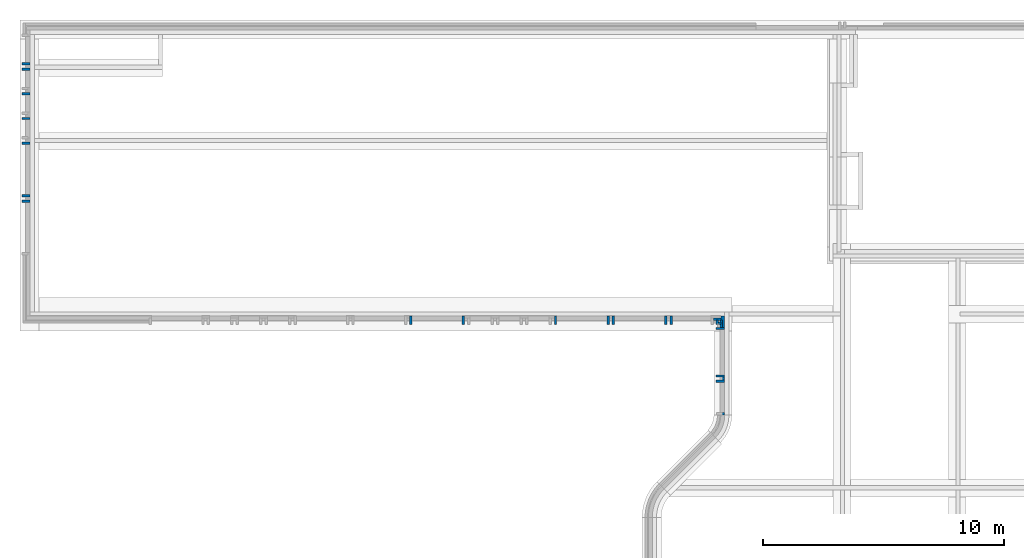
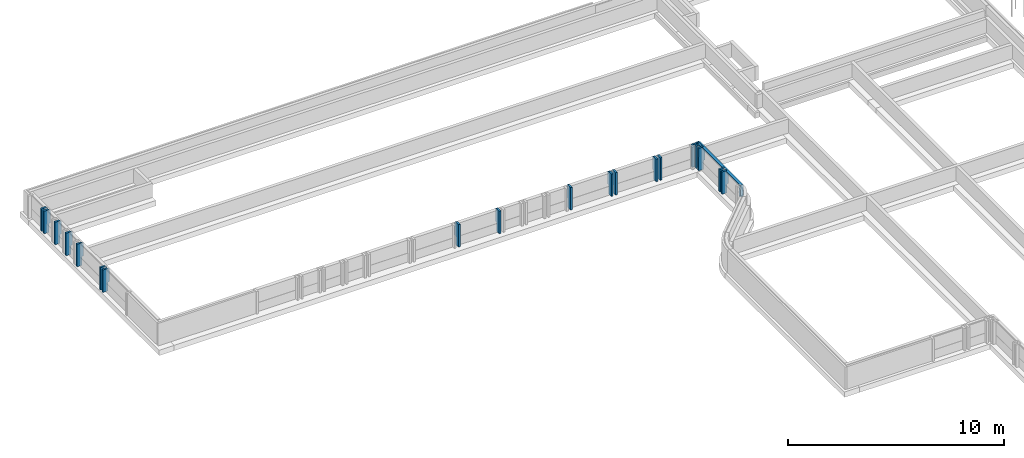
# One storey, part 12 of 15: 22 walls.
"""IFC2X3 building model written with IfcOpenShell, lengths in millimetres."""

from ifc_helpers import new_model, entity, si_unit, converted_unit, derived_unit, direction, frame, origin, place, context, subcontext, project, spatial, faceted_brep, material, layer, layer_set, type_object, element, save


model = new_model("IFC2X3")

# Units and contexts
model_context = context("Model", 3, precision=0.01, world=origin(), true_north=direction((6.123031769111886e-17, 1.0)))
body_context = subcontext(model_context, "Body", "Model", "MODEL_VIEW")
ifc_project = project(units=[si_unit("LENGTHUNIT", "METRE", prefix="MILLI"), si_unit("AREAUNIT", "SQUARE_METRE"), si_unit("VOLUMEUNIT", "CUBIC_METRE"), converted_unit("PLANEANGLEUNIT", "DEGREE", entity("IfcRatioMeasure", 0.017453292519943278), si_unit("PLANEANGLEUNIT", "RADIAN"), dimensions=[0, 0, 0, 0, 0, 0, 0]), si_unit("MASSUNIT", "GRAM", prefix="KILO"), derived_unit("MASSDENSITYUNIT", [(si_unit("MASSUNIT", "GRAM", prefix="KILO"), 1), (si_unit("LENGTHUNIT", "METRE"), -3)]), derived_unit("IONCONCENTRATIONUNIT", [(si_unit("MASSUNIT", "GRAM", prefix="KILO"), 1), (si_unit("LENGTHUNIT", "METRE"), -3)]), derived_unit("MOMENTOFINERTIAUNIT", [(si_unit("LENGTHUNIT", "METRE"), 4)]), si_unit("TIMEUNIT", "SECOND"), si_unit("FREQUENCYUNIT", "HERTZ"), si_unit("THERMODYNAMICTEMPERATUREUNIT", "DEGREE_CELSIUS"), derived_unit("THERMALTRANSMITTANCEUNIT", [(si_unit("MASSUNIT", "GRAM", prefix="KILO"), 1), (si_unit("THERMODYNAMICTEMPERATUREUNIT", "KELVIN"), -1), (si_unit("TIMEUNIT", "SECOND"), -3)]), derived_unit("THERMALCONDUCTANCEUNIT", [(si_unit("MASSUNIT", "GRAM", prefix="KILO"), 1), (si_unit("THERMODYNAMICTEMPERATUREUNIT", "KELVIN"), -1), (si_unit("TIMEUNIT", "SECOND"), -3), (si_unit("LENGTHUNIT", "METRE"), 1)]), derived_unit("VOLUMETRICFLOWRATEUNIT", [(si_unit("LENGTHUNIT", "METRE"), 3), (si_unit("TIMEUNIT", "SECOND"), -1)]), derived_unit("MASSFLOWRATEUNIT", [(si_unit("MASSUNIT", "GRAM", prefix="KILO"), 1), (si_unit("TIMEUNIT", "SECOND"), -1)]), derived_unit("ROTATIONALFREQUENCYUNIT", [(si_unit("TIMEUNIT", "SECOND"), -1)]), si_unit("ELECTRICCURRENTUNIT", "AMPERE"), si_unit("ELECTRICVOLTAGEUNIT", "VOLT"), si_unit("POWERUNIT", "WATT"), si_unit("FORCEUNIT", "NEWTON", prefix="KILO"), si_unit("ILLUMINANCEUNIT", "LUX"), si_unit("LUMINOUSFLUXUNIT", "LUMEN"), si_unit("LUMINOUSINTENSITYUNIT", "CANDELA"), derived_unit("USERDEFINED", [(si_unit("MASSUNIT", "GRAM", prefix="KILO"), -1), (si_unit("LENGTHUNIT", "METRE"), -2), (si_unit("TIMEUNIT", "SECOND"), 3), (si_unit("LUMINOUSFLUXUNIT", "LUMEN"), 1)]), derived_unit("USERDEFINED", [(si_unit("MASSUNIT", "GRAM", prefix="KILO"), 1), (si_unit("TIMEUNIT", "SECOND"), -3), (si_unit("LENGTHUNIT", "METRE"), 3), (si_unit("ELECTRICCURRENTUNIT", "AMPERE"), -2)]), derived_unit("SOUNDPOWERUNIT", [(si_unit("MASSUNIT", "GRAM", prefix="KILO"), 1), (si_unit("TIMEUNIT", "SECOND"), -3), (si_unit("LENGTHUNIT", "METRE"), 2)]), derived_unit("SOUNDPRESSUREUNIT", [(si_unit("MASSUNIT", "GRAM", prefix="KILO"), 1), (si_unit("LENGTHUNIT", "METRE"), -1), (si_unit("TIMEUNIT", "SECOND"), -2)]), derived_unit("LINEARVELOCITYUNIT", [(si_unit("LENGTHUNIT", "METRE"), 1), (si_unit("TIMEUNIT", "SECOND"), -1)]), si_unit("PRESSUREUNIT", "PASCAL"), derived_unit("USERDEFINED", [(si_unit("MASSUNIT", "GRAM", prefix="KILO"), 1), (si_unit("LENGTHUNIT", "METRE"), -2), (si_unit("TIMEUNIT", "SECOND"), -2)]), derived_unit("LINEARFORCEUNIT", [(si_unit("MASSUNIT", "GRAM", prefix="KILO"), 1), (si_unit("TIMEUNIT", "SECOND"), -2)]), derived_unit("PLANARFORCEUNIT", [(si_unit("MASSUNIT", "GRAM", prefix="KILO"), 1), (si_unit("LENGTHUNIT", "METRE"), -1), (si_unit("TIMEUNIT", "SECOND"), -2)]), derived_unit("SPECIFICHEATCAPACITYUNIT", [(si_unit("THERMODYNAMICTEMPERATUREUNIT", "KELVIN"), -1), (si_unit("LENGTHUNIT", "METRE"), 2), (si_unit("TIMEUNIT", "SECOND"), -2)]), derived_unit("HEATINGVALUEUNIT", [(si_unit("LENGTHUNIT", "METRE"), 2), (si_unit("TIMEUNIT", "SECOND"), -2)]), derived_unit("VAPORPERMEABILITYUNIT", [(si_unit("LENGTHUNIT", "METRE"), -1), (si_unit("TIMEUNIT", "SECOND"), 1)]), derived_unit("DYNAMICVISCOSITYUNIT", [(si_unit("MASSUNIT", "GRAM", prefix="KILO"), 1), (si_unit("TIMEUNIT", "SECOND"), -1), (si_unit("LENGTHUNIT", "METRE"), -1)]), derived_unit("THERMALEXPANSIONCOEFFICIENTUNIT", [(si_unit("THERMODYNAMICTEMPERATUREUNIT", "KELVIN"), -1)]), derived_unit("MODULUSOFELASTICITYUNIT", [(si_unit("MASSUNIT", "GRAM", prefix="KILO"), 1), (si_unit("LENGTHUNIT", "METRE"), -1), (si_unit("TIMEUNIT", "SECOND"), -2)]), derived_unit("ISOTHERMALMOISTURECAPACITYUNIT", [(si_unit("LENGTHUNIT", "METRE"), 3), (si_unit("MASSUNIT", "GRAM", prefix="KILO"), -1)]), derived_unit("MOISTUREDIFFUSIVITYUNIT", [(si_unit("TIMEUNIT", "SECOND"), -1), (si_unit("LENGTHUNIT", "METRE"), 2)])], contexts=[model_context])

# Site, building, storey
site_placement = place(None, frame((0.0, 300.0, 0.0)))
site = spatial("IfcSite", under=ifc_project, at=site_placement, Name="<Kadastrale nummers>", CompositionType="ELEMENT")
building_placement = place(site_placement, origin())
building = spatial("IfcBuilding", under=site, at=building_placement, CompositionType="ELEMENT")
storey_placement = place(building_placement, frame((0.0, 0.0, -1570.0)))
storey = spatial("IfcBuildingStorey", under=building, at=storey_placement, Name="-1 fundering", CompositionType="ELEMENT", Elevation=-1570.0)

# Walls
ifc_material_1 = material(Name="ISR_Metselwerk")
ifc_layer_1 = layer(ifc_material_1, 100.0)
ifc_layer_set_1 = layer_set([ifc_layer_1], Name="Basic Wall:21_DAT_metselwerk_100")
wall_type_1 = type_object("IfcWallType", Name="Basic Wall:21_DAT_metselwerk_100", PredefinedType="STANDARD", material=ifc_layer_set_1)
wall_1_placement = place(storey_placement, frame((2925.0, 48485.0, 300.0), z_axis=(0.0, 0.0, 1.0), x_axis=(-1.0, 0.0, 0.0)))
element("IfcWall", 1, at=wall_1_placement, inside=storey, type_object=wall_type_1, Name="Basic Wall:21_DAT_metselwerk_100", ObjectType="Basic Wall:21_DAT_metselwerk_100", context=body_context, shape_type="Brep", body=[
    faceted_brep([(85.0, -50.0, 0.0), (350.0, -50.0, 0.0), (350.0, -50.0, 1270.0), (85.0, -50.0, 1270.0), (85.0, -50.0, 1230.0), (0.0, -50.0, 1230.0), (0.0, -50.0, 500.0), (85.0, -50.0, 500.0), (85.0, 50.0, 0.0), (85.0, 50.0, 500.0), (0.0, 50.0, 500.0), (0.0, 50.0, 1230.0), (85.0, 50.0, 1230.0), (85.0, 50.0, 1270.0), (185.0, 50.0, 1270.0), (350.0, 50.0, 1270.0), (350.0, 50.0, 0.0), (185.0, 50.0, 0.0)], [[[0, 1, 2, 3, 4, 5, 6, 7]], [[8, 9, 10, 11, 12, 13, 14, 15, 16, 17]], [[1, 0, 8, 17, 16]], [[2, 1, 16, 15]], [[3, 2, 15, 14, 13]], [[6, 10, 9, 7]], [[4, 12, 11, 5]], [[0, 7, 9, 8]], [[6, 5, 11, 10]], [[4, 3, 13, 12]]]),
])
wall_2_placement = place(storey_placement, frame((2925.001376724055, 48265.0, 300.0), z_axis=(0.0, 0.0, 1.0), x_axis=(-1.0, 0.0, 0.0)))
element("IfcWall", 2, at=wall_2_placement, inside=storey, type_object=wall_type_1, Name="Basic Wall:21_DAT_metselwerk_100", ObjectType="Basic Wall:21_DAT_metselwerk_100", context=body_context, shape_type="Brep", body=[
    faceted_brep([(85.00137672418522, -50.0, 0.0), (185.0013767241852, -50.0, 0.0), (350.0013767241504, -50.0, 0.0), (350.0013767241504, -50.0, 1270.0), (185.0013767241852, -50.0, 1270.0), (85.00137672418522, -50.0, 1270.0), (85.00137672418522, -50.0, 1230.0), (0.0, -50.0, 1230.0), (0.0, -50.0, 500.0), (85.00137672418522, -50.0, 500.0), (85.00137672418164, 50.0, 0.0), (85.00137672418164, 50.0, 500.0), (0.0, 50.0, 500.0), (0.0, 50.0, 1230.0), (85.00137672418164, 50.0, 1230.0), (85.00137672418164, 50.0, 1270.0), (350.0013767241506, 50.0, 1270.0), (350.0013767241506, 50.0, 0.0)], [[[0, 1, 2, 3, 4, 5, 6, 7, 8, 9]], [[10, 11, 12, 13, 14, 15, 16, 17]], [[2, 1, 0, 10, 17]], [[3, 2, 17, 16]], [[5, 4, 3, 16, 15]], [[8, 12, 11, 9]], [[6, 14, 13, 7]], [[0, 9, 11, 10]], [[8, 7, 13, 12]], [[6, 5, 15, 14]]]),
])
wall_3_placement = place(storey_placement, frame((2925.001376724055, 47240.0, 300.0), z_axis=(0.0, 0.0, 1.0), x_axis=(-1.0, 0.0, 0.0)))
element("IfcWall", 3, at=wall_3_placement, inside=storey, type_object=wall_type_1, Name="Basic Wall:21_DAT_metselwerk_100", ObjectType="Basic Wall:21_DAT_metselwerk_100", context=body_context, shape_type="Brep", body=[
    faceted_brep([(85.0013767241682, -50.0, 0.0), (185.00137672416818, -50.0, 0.0), (350.00137672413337, -50.0, 0.0), (350.00137672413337, -50.0, 1270.0), (185.00137672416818, -50.0, 1270.0), (85.0013767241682, -50.0, 1270.0), (85.0013767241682, -50.0, 1225.0), (0.0, -50.0, 1225.0), (0.0, -50.0, 500.0), (85.0013767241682, -50.0, 500.0), (85.00137672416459, 50.0, 0.0), (85.00137672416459, 50.0, 500.0), (0.0, 50.0, 500.0), (0.0, 50.0, 1225.0), (85.00137672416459, 50.0, 1225.0), (85.00137672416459, 50.0, 1270.0), (350.00137672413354, 50.0, 1270.0), (350.00137672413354, 50.0, 0.0)], [[[0, 1, 2, 3, 4, 5, 6, 7, 8, 9]], [[10, 11, 12, 13, 14, 15, 16, 17]], [[2, 1, 0, 10, 17]], [[3, 2, 17, 16]], [[5, 4, 3, 16, 15]], [[8, 12, 11, 9]], [[6, 14, 13, 7]], [[0, 9, 11, 10]], [[8, 7, 13, 12]], [[6, 5, 15, 14]]]),
])
wall_4_placement = place(storey_placement, frame((2925.0013767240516, 46215.0, 300.0), z_axis=(0.0, 0.0, 1.0), x_axis=(-1.0, 0.0, 0.0)))
element("IfcWall", 4, at=wall_4_placement, inside=storey, type_object=wall_type_1, Name="Basic Wall:21_DAT_metselwerk_100", ObjectType="Basic Wall:21_DAT_metselwerk_100", context=body_context, shape_type="Brep", body=[
    faceted_brep([(85.00137672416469, -50.0, 0.0), (185.0013767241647, -50.0, 0.0), (350.0013767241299, -50.0, 0.0), (350.0013767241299, -50.0, 1270.0), (185.0013767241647, -50.0, 1270.0), (85.00137672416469, -50.0, 1270.0), (85.00137672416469, -50.0, 1230.0), (0.0, -50.0, 1230.0), (0.0, -50.0, 500.0), (85.00137672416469, -50.0, 500.0), (85.00137672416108, 50.0, 0.0), (85.00137672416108, 50.0, 500.0), (0.0, 50.0, 500.0), (0.0, 50.0, 1230.0), (85.00137672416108, 50.0, 1230.0), (85.00137672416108, 50.0, 1270.0), (350.0013767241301, 50.0, 1270.0), (350.0013767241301, 50.0, 0.0)], [[[0, 1, 2, 3, 4, 5, 6, 7, 8, 9]], [[10, 11, 12, 13, 14, 15, 16, 17]], [[2, 1, 0, 10, 17]], [[3, 2, 17, 16]], [[5, 4, 3, 16, 15]], [[8, 12, 11, 9]], [[6, 14, 13, 7]], [[0, 9, 11, 10]], [[8, 7, 13, 12]], [[6, 5, 15, 14]]]),
])
wall_5_placement = place(storey_placement, frame((2925.0, 45190.0, 300.0), z_axis=(0.0, 0.0, 1.0), x_axis=(-1.0, 0.0, 0.0)))
element("IfcWall", 5, at=wall_5_placement, inside=storey, type_object=wall_type_1, Name="Basic Wall:21_DAT_metselwerk_100", ObjectType="Basic Wall:21_DAT_metselwerk_100", context=body_context, shape_type="Brep", body=[
    faceted_brep([(85.0, -50.0, 0.0), (185.0, -50.0, 0.0), (350.0, -50.0, 0.0), (350.0, -50.0, 1270.0), (185.0, -50.0, 1270.0), (85.0, -50.0, 1270.0), (85.0, -50.0, 1230.0), (0.0, -50.0, 1230.0), (0.0, -50.0, 500.0), (85.0, -50.0, 500.0), (85.0, 50.0, 0.0), (85.0, 50.0, 500.0), (0.0, 50.0, 500.0), (0.0, 50.0, 1230.0), (85.0, 50.0, 1230.0), (85.0, 50.0, 1270.0), (350.0, 50.0, 1270.0), (350.0, 50.0, 0.0)], [[[0, 1, 2, 3, 4, 5, 6, 7, 8, 9]], [[10, 11, 12, 13, 14, 15, 16, 17]], [[2, 1, 0, 10, 17]], [[3, 2, 17, 16]], [[5, 4, 3, 16, 15]], [[8, 12, 11, 9]], [[6, 14, 13, 7]], [[0, 9, 11, 10]], [[8, 7, 13, 12]], [[6, 5, 15, 14]]]),
])
wall_6_placement = place(storey_placement, frame((2925.0, 43010.0, 300.0), z_axis=(0.0, 0.0, 1.0), x_axis=(-1.0, 0.0, 0.0)))
element("IfcWall", 6, at=wall_6_placement, inside=storey, type_object=wall_type_1, Name="Basic Wall:21_DAT_metselwerk_100", ObjectType="Basic Wall:21_DAT_metselwerk_100", context=body_context, shape_type="Brep", body=[
    faceted_brep([(85.0, -50.0, 0.0), (350.0, -50.0, 0.0), (350.0, -50.0, 1270.0), (85.0, -50.0, 1270.0), (85.0, -50.0, 1230.0), (0.0, -50.0, 1230.0), (0.0, -50.0, 500.0), (85.0, -50.0, 500.0), (85.0, 50.0, 0.0), (85.0, 50.0, 500.0), (0.0, 50.0, 500.0), (0.0, 50.0, 1230.0), (85.0, 50.0, 1230.0), (85.0, 50.0, 1270.0), (185.0, 50.0, 1270.0), (350.0, 50.0, 1270.0), (350.0, 50.0, 0.0), (185.0, 50.0, 0.0)], [[[0, 1, 2, 3, 4, 5, 6, 7]], [[8, 9, 10, 11, 12, 13, 14, 15, 16, 17]], [[1, 0, 8, 17, 16]], [[2, 1, 16, 15]], [[3, 2, 15, 14, 13]], [[6, 10, 9, 7]], [[4, 12, 11, 5]], [[0, 7, 9, 8]], [[6, 5, 11, 10]], [[4, 3, 13, 12]]]),
])
for number, where, z_axis, x_axis, name in (
    (7, (2925.0, 42790.0, 300.0), (0.0, 0.0, 1.0), (-1.0, 0.0, 0.0), "Basic Wall:21_DAT_metselwerk_100"),
    (8, (18710.0, 38025.0, 300.0), (0.0, 0.0, 1.0), (0.0, -1.0, 0.0), "Basic Wall:21_DAT_metselwerk_100"),
):
    element("IfcWall", number, at=place(storey_placement, frame(where, z_axis=z_axis, x_axis=x_axis)), inside=storey, type_object=wall_type_1, Name=name, ObjectType="Basic Wall:21_DAT_metselwerk_100", context=body_context, shape_type="Brep", body=[
        faceted_brep([(85.0, -50.0, 0.0), (185.0, -50.0, 0.0), (350.0, -50.0, 0.0), (350.0, -50.0, 1270.0), (185.0, -50.0, 1270.0), (85.0, -50.0, 1270.0), (85.0, -50.0, 1230.0), (0.0, -50.0, 1230.0), (0.0, -50.0, 500.0), (85.0, -50.0, 500.0), (85.0, 50.0, 0.0), (85.0, 50.0, 500.0), (0.0, 50.0, 500.0), (0.0, 50.0, 1230.0), (85.0, 50.0, 1230.0), (85.0, 50.0, 1270.0), (350.0, 50.0, 1270.0), (350.0, 50.0, 0.0)], [[[0, 1, 2, 3, 4, 5, 6, 7, 8, 9]], [[10, 11, 12, 13, 14, 15, 16, 17]], [[2, 1, 0, 10, 17]], [[3, 2, 17, 16]], [[5, 4, 3, 16, 15]], [[8, 12, 11, 9]], [[6, 14, 13, 7]], [[0, 9, 11, 10]], [[8, 7, 13, 12]], [[6, 5, 15, 14]]]),
    ])
wall_7_placement = place(storey_placement, frame((20890.0, 38025.0, 300.0), z_axis=(0.0, 0.0, 1.0), x_axis=(0.0, -1.0, 0.0)))
element("IfcWall", 9, at=wall_7_placement, inside=storey, type_object=wall_type_1, Name="Basic Wall:21_DAT_metselwerk_100", ObjectType="Basic Wall:21_DAT_metselwerk_100", context=body_context, shape_type="Brep", body=[
    faceted_brep([(85.0, -50.0, 0.0), (350.0, -50.0, 0.0), (350.0, -50.0, 1270.0), (85.0, -50.0, 1270.0), (85.0, -50.0, 1230.0), (0.0, -50.0, 1230.0), (0.0, -50.0, 500.0), (85.0, -50.0, 500.0), (85.0, 50.0, 0.0), (85.0, 50.0, 500.0), (0.0, 50.0, 500.0), (0.0, 50.0, 1230.0), (85.0, 50.0, 1230.0), (85.0, 50.0, 1270.0), (185.0, 50.0, 1270.0), (350.0, 50.0, 1270.0), (350.0, 50.0, 0.0), (185.0, 50.0, 0.0)], [[[0, 1, 2, 3, 4, 5, 6, 7]], [[8, 9, 10, 11, 12, 13, 14, 15, 16, 17]], [[1, 0, 8, 17, 16]], [[2, 1, 16, 15]], [[3, 2, 15, 14, 13]], [[6, 10, 9, 7]], [[4, 12, 11, 5]], [[0, 7, 9, 8]], [[6, 5, 11, 10]], [[4, 3, 13, 12]]]),
])
wall_8_placement = place(storey_placement, frame((24710.0, 38025.0, 300.0), z_axis=(0.0, 0.0, 1.0), x_axis=(0.0, -1.0, 0.0)))
element("IfcWall", 10, at=wall_8_placement, inside=storey, type_object=wall_type_1, Name="Basic Wall:21_DAT_metselwerk_100", ObjectType="Basic Wall:21_DAT_metselwerk_100", context=body_context, shape_type="Brep", body=[
    faceted_brep([(85.0, -50.0, 0.0), (185.0, -50.0, 0.0), (350.0, -50.0, 0.0), (350.0, -50.0, 1270.0), (185.0, -50.0, 1270.0), (85.0, -50.0, 1270.0), (85.0, -50.0, 1230.0), (0.0, -50.0, 1230.0), (0.0, -50.0, 500.0), (85.0, -50.0, 500.0), (85.0, 50.0, 0.0), (85.0, 50.0, 500.0), (0.0, 50.0, 500.0), (0.0, 50.0, 1230.0), (85.0, 50.0, 1230.0), (85.0, 50.0, 1270.0), (350.0, 50.0, 1270.0), (350.0, 50.0, 0.0)], [[[0, 1, 2, 3, 4, 5, 6, 7, 8, 9]], [[10, 11, 12, 13, 14, 15, 16, 17]], [[2, 1, 0, 10, 17]], [[3, 2, 17, 16]], [[5, 4, 3, 16, 15]], [[8, 12, 11, 9]], [[6, 14, 13, 7]], [[0, 9, 11, 10]], [[8, 7, 13, 12]], [[6, 5, 15, 14]]]),
])
wall_9_placement = place(storey_placement, frame((26890.0, 38025.0, 300.0), z_axis=(0.0, 0.0, 1.0), x_axis=(0.0, -1.0, 0.0)))
element("IfcWall", 11, at=wall_9_placement, inside=storey, type_object=wall_type_1, Name="Basic Wall:21_DAT_metselwerk_100", ObjectType="Basic Wall:21_DAT_metselwerk_100", context=body_context, shape_type="Brep", body=[
    faceted_brep([(85.0, -50.0, 0.0), (350.0, -50.0, 0.0), (350.0, -50.0, 1270.0), (85.0, -50.0, 1270.0), (85.0, -50.0, 1230.0), (0.0, -50.0, 1230.0), (0.0, -50.0, 500.0), (85.0, -50.0, 500.0), (85.0, 50.0, 0.0), (85.0, 50.0, 500.0), (0.0, 50.0, 500.0), (0.0, 50.0, 1230.0), (85.0, 50.0, 1230.0), (85.0, 50.0, 1270.0), (185.0, 50.0, 1270.0), (350.0, 50.0, 1270.0), (350.0, 50.0, 0.0), (185.0, 50.0, 0.0)], [[[0, 1, 2, 3, 4, 5, 6, 7]], [[8, 9, 10, 11, 12, 13, 14, 15, 16, 17]], [[1, 0, 8, 17, 16]], [[2, 1, 16, 15]], [[3, 2, 15, 14, 13]], [[6, 10, 9, 7]], [[4, 12, 11, 5]], [[0, 7, 9, 8]], [[6, 5, 11, 10]], [[4, 3, 13, 12]]]),
])
wall_10_placement = place(storey_placement, frame((27110.0, 38025.0, 300.0), z_axis=(0.0, 0.0, 1.0), x_axis=(0.0, -1.0, 0.0)))
element("IfcWall", 12, at=wall_10_placement, inside=storey, type_object=wall_type_1, Name="Basic Wall:21_DAT_metselwerk_100", ObjectType="Basic Wall:21_DAT_metselwerk_100", context=body_context, shape_type="Brep", body=[
    faceted_brep([(85.0, -50.0, 0.0), (185.0, -50.0, 0.0), (350.0, -50.0, 0.0), (350.0, -50.0, 1270.0), (185.0, -50.0, 1270.0), (85.0, -50.0, 1270.0), (85.0, -50.0, 1230.0), (0.0, -50.0, 1230.0), (0.0, -50.0, 500.0), (85.0, -50.0, 500.0), (85.0, 50.0, 0.0), (85.0, 50.0, 500.0), (0.0, 50.0, 500.0), (0.0, 50.0, 1230.0), (85.0, 50.0, 1230.0), (85.0, 50.0, 1270.0), (350.0, 50.0, 1270.0), (350.0, 50.0, 0.0)], [[[0, 1, 2, 3, 4, 5, 6, 7, 8, 9]], [[10, 11, 12, 13, 14, 15, 16, 17]], [[2, 1, 0, 10, 17]], [[3, 2, 17, 16]], [[5, 4, 3, 16, 15]], [[8, 12, 11, 9]], [[6, 14, 13, 7]], [[0, 9, 11, 10]], [[8, 7, 13, 12]], [[6, 5, 15, 14]]]),
])
wall_11_placement = place(storey_placement, frame((29290.0, 38025.0, 300.0), z_axis=(0.0, 0.0, 1.0), x_axis=(0.0, -1.0, 0.0)))
element("IfcWall", 13, at=wall_11_placement, inside=storey, type_object=wall_type_1, Name="Basic Wall:21_DAT_metselwerk_100", ObjectType="Basic Wall:21_DAT_metselwerk_100", context=body_context, shape_type="Brep", body=[
    faceted_brep([(85.0, -50.0, 0.0), (350.0, -50.0, 0.0), (350.0, -50.0, 1270.0), (85.0, -50.0, 1270.0), (85.0, -50.0, 1230.0), (0.0, -50.0, 1230.0), (0.0, -50.0, 500.0), (85.0, -50.0, 500.0), (85.0, 50.0, 0.0), (85.0, 50.0, 500.0), (0.0, 50.0, 500.0), (0.0, 50.0, 1230.0), (85.0, 50.0, 1230.0), (85.0, 50.0, 1270.0), (185.0, 50.0, 1270.0), (350.0, 50.0, 1270.0), (350.0, 50.0, 0.0), (185.0, 50.0, 0.0)], [[[0, 1, 2, 3, 4, 5, 6, 7]], [[8, 9, 10, 11, 12, 13, 14, 15, 16, 17]], [[1, 0, 8, 17, 16]], [[2, 1, 16, 15]], [[3, 2, 15, 14, 13]], [[6, 10, 9, 7]], [[4, 12, 11, 5]], [[0, 7, 9, 8]], [[6, 5, 11, 10]], [[4, 3, 13, 12]]]),
])
wall_12_placement = place(storey_placement, frame((29510.0, 38025.0, 300.0), z_axis=(0.0, 0.0, 1.0), x_axis=(0.0, -1.0, 0.0)))
element("IfcWall", 14, at=wall_12_placement, inside=storey, type_object=wall_type_1, Name="Basic Wall:21_DAT_metselwerk_100", ObjectType="Basic Wall:21_DAT_metselwerk_100", context=body_context, shape_type="Brep", body=[
    faceted_brep([(85.0, -50.0, 0.0), (185.0, -50.0, 0.0), (350.0, -50.0, 0.0), (350.0, -50.0, 1270.0), (185.0, -50.0, 1270.0), (85.0, -50.0, 1270.0), (85.0, -50.0, 1225.0), (0.0, -50.0, 1225.0), (0.0, -50.0, 500.0), (85.0, -50.0, 500.0), (85.0, 50.0, 0.0), (85.0, 50.0, 500.0), (0.0, 50.0, 500.0), (0.0, 50.0, 1225.0), (85.0, 50.0, 1225.0), (85.0, 50.0, 1270.0), (350.0, 50.0, 1270.0), (350.0, 50.0, 0.0)], [[[0, 1, 2, 3, 4, 5, 6, 7, 8, 9]], [[10, 11, 12, 13, 14, 15, 16, 17]], [[2, 1, 0, 10, 17]], [[3, 2, 17, 16]], [[5, 4, 3, 16, 15]], [[8, 12, 11, 9]], [[6, 14, 13, 7]], [[0, 9, 11, 10]], [[8, 7, 13, 12]], [[6, 5, 15, 14]]]),
])
wall_13_placement = place(storey_placement, frame((31725.036916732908, 35535.0, 300.0), z_axis=(0.0, 0.0, 1.0), x_axis=(-1.0, 0.0, 0.0)))
element("IfcWall", 15, at=wall_13_placement, inside=storey, type_object=wall_type_1, Name="Basic Wall:21_DAT_metselwerk_100", ObjectType="Basic Wall:21_DAT_metselwerk_100", context=body_context, shape_type="Brep", body=[
    faceted_brep([(85.03691672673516, -50.0, 0.0), (350.03691672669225, -50.0, 0.0), (350.03691672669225, -50.0, 1270.0), (85.03691672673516, -50.0, 1270.0), (85.03691672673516, -50.0, 1230.0), (0.0, -50.0, 1230.0), (0.0, -50.0, 500.0), (85.03691672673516, -50.0, 500.0), (85.03691672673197, 50.0, 0.0), (85.03691672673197, 50.0, 500.0), (0.0, 50.0, 500.0), (0.0, 50.0, 1230.0), (85.03691672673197, 50.0, 1230.0), (85.03691672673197, 50.0, 1270.0), (185.0369167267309, 50.0, 1270.0), (350.0369167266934, 50.0, 1270.0), (350.0369167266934, 50.0, 0.0), (185.0369167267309, 50.0, 0.0)], [[[0, 1, 2, 3, 4, 5, 6, 7]], [[8, 9, 10, 11, 12, 13, 14, 15, 16, 17]], [[1, 0, 8, 17, 16]], [[2, 1, 16, 15]], [[3, 2, 15, 14, 13]], [[6, 10, 9, 7]], [[4, 12, 11, 5]], [[0, 7, 9, 8]], [[6, 5, 11, 10]], [[4, 3, 13, 12]]]),
])
wall_14_placement = place(storey_placement, frame((31725.03691673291, 35315.0, 300.0), z_axis=(0.0, 0.0, 1.0), x_axis=(-1.0, 0.0, 0.0)))
element("IfcWall", 16, at=wall_14_placement, inside=storey, type_object=wall_type_1, Name="Basic Wall:21_DAT_metselwerk_100", ObjectType="Basic Wall:21_DAT_metselwerk_100", context=body_context, shape_type="Brep", body=[
    faceted_brep([(85.03691672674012, -50.0, 0.0), (185.03691672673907, -50.0, 0.0), (350.03691672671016, -50.0, 0.0), (350.03691672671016, -50.0, 1270.0), (185.03691672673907, -50.0, 1270.0), (85.03691672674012, -50.0, 1270.0), (85.03691672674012, -50.0, 1225.0), (0.0, -50.0, 1225.0), (0.0, -50.0, 500.0), (85.03691672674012, -50.0, 500.0), (85.03691672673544, 50.0, 0.0), (85.03691672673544, 50.0, 500.0), (0.0, 50.0, 500.0), (0.0, 50.0, 1225.0), (85.03691672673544, 50.0, 1225.0), (85.03691672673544, 50.0, 1270.0), (350.0369167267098, 50.0, 1270.0), (350.0369167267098, 50.0, 0.0)], [[[0, 1, 2, 3, 4, 5, 6, 7, 8, 9]], [[10, 11, 12, 13, 14, 15, 16, 17]], [[2, 1, 0, 10, 17]], [[3, 2, 17, 16]], [[5, 4, 3, 16, 15]], [[8, 12, 11, 9]], [[6, 14, 13, 7]], [[0, 9, 11, 10]], [[8, 7, 13, 12]], [[6, 5, 15, 14]]]),
])
wall_15_placement = place(storey_placement, frame((31565.036916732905, 37890.0, 300.0), z_axis=(0.0, 0.0, 1.0), x_axis=(-1.0, 0.0, 0.0)))
element("IfcWall", 17, at=wall_15_placement, inside=storey, type_object=wall_type_1, Name="Basic Wall:21_DAT_metselwerk_100", ObjectType="Basic Wall:21_DAT_metselwerk_100", context=body_context, shape_type="Brep", body=[
    faceted_brep([(40.0, -50.0, 0.0), (310.03691673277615, -50.0, 0.0), (310.03691673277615, -50.0, 1270.0), (0.0, -50.0, 1270.0), (0.0, -50.0, 1260.0), (0.0, -50.0, 1225.0), (0.0, -50.0, 600.0), (40.0, -50.0, 600.0), (40.0, 50.0, 0.0), (40.0, 50.0, 600.0), (0.0, 50.0, 600.0), (0.0, 50.0, 1270.0), (25.036916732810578, 50.0, 1270.0), (90.03691673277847, 50.0, 1270.0), (190.0369167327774, 50.0, 1270.0), (310.0369167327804, 50.0, 1270.0), (310.0369167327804, 50.0, 0.0)], [[[0, 1, 2, 3, 4, 5, 6, 7]], [[8, 9, 10, 11, 12, 13, 14, 15, 16]], [[1, 0, 8, 16]], [[3, 2, 15, 14, 13, 12, 11]], [[2, 1, 16, 15]], [[6, 10, 9, 7]], [[0, 7, 9, 8]], [[3, 11, 10, 6, 5, 4]]]),
])
wall_16_placement = place(storey_placement, frame((31590.0, 37865.0, 300.0), z_axis=(0.0, 0.0, 1.0), x_axis=(0.0, -1.0, 0.0)))
element("IfcWall", 18, at=wall_16_placement, inside=storey, type_object=wall_type_1, Name="Basic Wall:21_DAT_metselwerk_100", ObjectType="Basic Wall:21_DAT_metselwerk_100", context=body_context, shape_type="Brep", body=[
    faceted_brep([(40.0, -50.0, 0.0), (310.0, -50.0, 0.0), (310.0, -50.0, 1270.0), (190.0, -50.0, 1270.0), (90.0, -50.0, 1270.0), (25.0, -50.0, 1270.0), (25.0, -50.0, 1225.0), (0.0, -50.0, 1225.0), (0.0, -50.0, 600.0), (25.0, -50.0, 600.0), (25.0, -50.0, 500.0), (40.0, -50.0, 500.0), (40.0, 50.0, 0.0), (40.0, 50.0, 500.0), (25.0, 50.0, 500.0), (25.0, 50.0, 600.0), (0.0, 50.0, 600.0), (0.0, 50.0, 1225.0), (25.0, 50.0, 1225.0), (25.0, 50.0, 1270.0), (310.0, 50.0, 1270.0), (310.0, 50.0, 1230.0), (310.0, 50.0, 500.0), (310.0, 50.0, 0.0), (25.0, -24.963083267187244, 1270.0), (0.0, -24.96308326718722, 600.0), (0.0, -24.96308326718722, 1225.0)], [[[0, 1, 2, 3, 4, 5, 6, 7, 8, 9, 10, 11]], [[12, 13, 14, 15, 16, 17, 18, 19, 20, 21, 22, 23]], [[1, 0, 12, 23]], [[5, 4, 3, 2, 20, 19, 24]], [[10, 14, 13, 11]], [[8, 25, 16, 15, 9]], [[6, 18, 17, 26, 7]], [[0, 11, 13, 12]], [[10, 9, 15, 14]], [[8, 7, 26, 17, 16, 25]], [[5, 24, 19, 18, 6]], [[1, 23, 22, 21, 20, 2]]]),
])
wall_17_placement = place(storey_placement, frame((31425.0, 37865.0, 300.0), z_axis=(0.0, 0.0, 1.0), x_axis=(0.0, -1.0, 0.0)))
element("IfcWall", 19, at=wall_17_placement, inside=storey, type_object=wall_type_1, Name="Basic Wall:21_DAT_metselwerk_100", ObjectType="Basic Wall:21_DAT_metselwerk_100", context=body_context, shape_type="Brep", body=[
    faceted_brep([(40.0, -50.0, 0.0), (140.0, -50.0, 0.0), (190.0, -50.0, 0.0), (190.0, -50.0, 1270.0), (140.0, -50.0, 1270.0), (40.0, -50.0, 1270.0), (25.0, -50.0, 1270.0), (25.0, -50.0, 1225.0), (0.0, -50.0, 1225.0), (0.0, -50.0, 600.0), (25.0, -50.0, 600.0), (25.0, -50.0, 500.0), (40.0, -50.0, 500.0), (40.0, 50.0, 0.0), (40.0, 50.0, 500.0), (25.0, 50.0, 500.0), (25.0, 50.0, 600.0), (0.0, 50.0, 600.0), (0.0, 50.0, 1225.0), (25.0, 50.0, 1225.0), (25.0, 50.0, 1270.0), (90.0, 50.0, 1270.0), (190.0, 50.0, 1270.0), (190.0, 50.0, 0.0), (90.0, 50.0, 0.0)], [[[0, 1, 2, 3, 4, 5, 6, 7, 8, 9, 10, 11, 12]], [[13, 14, 15, 16, 17, 18, 19, 20, 21, 22, 23, 24]], [[2, 1, 0, 13, 24, 23]], [[6, 5, 4, 3, 22, 21, 20]], [[3, 2, 23, 22]], [[11, 15, 14, 12]], [[9, 17, 16, 10]], [[7, 19, 18, 8]], [[0, 12, 14, 13]], [[11, 10, 16, 15]], [[9, 8, 18, 17]], [[7, 6, 20, 19]]]),
])
wall_18_placement = place(storey_placement, frame((31565.036916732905, 37725.0, 300.0), z_axis=(0.0, 0.0, 1.0), x_axis=(-1.0, 0.0, 0.0)))
element("IfcWall", 20, at=wall_18_placement, inside=storey, type_object=wall_type_1, Name="Basic Wall:21_DAT_metselwerk_100", ObjectType="Basic Wall:21_DAT_metselwerk_100", context=body_context, shape_type="Brep", body=[
    faceted_brep([(40.0, -50.0, 0.0), (90.03691673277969, -50.0, 0.0), (90.03691673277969, -50.0, 1270.0), (25.036916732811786, -50.0, 1270.0), (25.036916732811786, -50.0, 1260.0), (0.0, -50.0, 1260.0), (0.0, -50.0, 600.0), (25.036916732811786, -50.0, 600.0), (25.036916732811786, -50.0, 500.0), (40.0, -50.0, 500.0), (40.0, 50.0, 0.0), (40.0, 50.0, 500.0), (25.036916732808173, 50.0, 500.0), (25.036916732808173, 50.0, 600.0), (0.0, 50.0, 600.0), (0.0, 50.0, 1260.0), (25.036916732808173, 50.0, 1260.0), (25.036916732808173, 50.0, 1270.0), (90.0369167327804, 50.0, 1270.0), (90.0369167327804, 50.0, 0.0)], [[[0, 1, 2, 3, 4, 5, 6, 7, 8, 9]], [[10, 11, 12, 13, 14, 15, 16, 17, 18, 19]], [[1, 0, 10, 19]], [[3, 2, 18, 17]], [[2, 1, 19, 18]], [[8, 12, 11, 9]], [[6, 14, 13, 7]], [[4, 16, 15, 5]], [[0, 9, 11, 10]], [[8, 7, 13, 12]], [[6, 5, 15, 14]], [[4, 3, 17, 16]]]),
])
wall_19_placement = place(storey_placement, frame((31725.036916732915, 37505.0, 300.0), z_axis=(0.0, 0.0, 1.0), x_axis=(-1.0, 0.0, 0.0)))
element("IfcWall", 21, at=wall_19_placement, inside=storey, type_object=wall_type_1, Name="Basic Wall:21_DAT_metselwerk_100", ObjectType="Basic Wall:21_DAT_metselwerk_100", context=body_context, shape_type="Brep", body=[
    faceted_brep([(85.03691673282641, -50.0, 0.0), (185.03691673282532, -50.0, 0.0), (200.0, -50.0, 0.0), (300.0, -50.0, 0.0), (350.0369167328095, -50.0, 0.0), (350.0369167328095, -50.0, 1270.0), (300.0, -50.0, 1270.0), (200.0, -50.0, 1270.0), (185.03691673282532, -50.0, 1270.0), (85.03691673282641, -50.0, 1270.0), (85.03691673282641, -50.0, 1230.0), (0.0, -50.0, 1230.0), (0.0, -50.0, 500.0), (85.03691673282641, -50.0, 500.0), (85.03691673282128, 50.0, 0.0), (85.03691673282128, 50.0, 500.0), (0.0, 50.0, 500.0), (0.0, 50.0, 1230.0), (85.03691673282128, 50.0, 1230.0), (85.03691673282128, 50.0, 1270.0), (350.03691673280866, 50.0, 1270.0), (350.03691673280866, 50.0, 0.0)], [[[0, 1, 2, 3, 4, 5, 6, 7, 8, 9, 10, 11, 12, 13]], [[14, 15, 16, 17, 18, 19, 20, 21]], [[4, 3, 2, 1, 0, 14, 21]], [[5, 4, 21, 20]], [[9, 8, 7, 6, 5, 20, 19]], [[12, 16, 15, 13]], [[10, 18, 17, 11]], [[0, 13, 15, 14]], [[12, 11, 17, 16]], [[10, 9, 19, 18]]]),
])
ifc_material_2 = material(Name="ISR_Isolatie")
ifc_layer_2 = layer(ifc_material_2, 160.0)
ifc_layer_set_2 = layer_set([ifc_layer_2], Name="Basic Wall:21_DAT_isolatie minerale wol_160")
wall_type_2 = type_object("IfcWallType", Name="Basic Wall:21_DAT_isolatie minerale wol_160", PredefinedType="STANDARD", material=ifc_layer_set_2)
wall_20_placement = place(storey_placement, frame((31645.036916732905, 33911.90316893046, 900.0), z_axis=(0.0, 0.0, 1.0), x_axis=(0.0, 1.0, 0.0)))
element("IfcWall", 22, at=wall_20_placement, inside=storey, type_object=wall_type_2, Name="Basic Wall:21_DAT_isolatie minerale wol_160", ObjectType="Basic Wall:21_DAT_isolatie minerale wol_160", context=body_context, shape_type="Brep", body=[
    faceted_brep([(4028.096831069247, -80.0, 660.0), (0.0, -80.0, 660.0), (0.0, -80.0, 0.0), (111.09683106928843, -80.0, 0.0), (111.09683106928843, -80.0, 625.0), (1353.09683106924, -80.0, 625.0), (1353.09683106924, -80.0, 0.0), (1673.0968310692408, -80.0, 0.0), (1673.0968310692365, -80.0, 630.0), (3543.0968310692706, -80.0, 630.0), (3543.0968310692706, -80.0, 0.0), (4113.096831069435, -80.0, 0.0), (4113.096831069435, -80.0, 625.0), (4028.096831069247, -80.0, 625.0), (0.0, 80.0, 660.0), (3763.096831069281, 80.0, 660.0), (3863.09683106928, 80.0, 660.0), (4028.096831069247, 80.0, 660.0), (4028.096831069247, 80.0, 625.0), (4113.096831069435, 80.0, 625.0), (4113.096831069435, 80.0, 0.0), (4028.096831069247, 80.0, 0.0), (3953.096831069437, 80.0, 0.0), (3928.096831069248, 80.0, 0.0), (3863.09683106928, 80.0, 0.0), (3763.096831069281, 80.0, 0.0), (3543.0968310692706, 80.0, 0.0), (3543.0968310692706, 80.0, 630.0), (1673.0968310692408, 80.0, 630.0), (1673.0968310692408, 80.0, 0.0), (1353.09683106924, 80.0, 0.0), (1353.09683106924, 80.0, 625.0), (111.09683106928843, 80.0, 625.0), (111.09683106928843, 80.0, 0.0), (0.0, 80.0, 0.0)], [[[0, 1, 2, 3, 4, 5, 6, 7, 8, 9, 10, 11, 12, 13]], [[14, 15, 16, 17, 18, 19, 20, 21, 22, 23, 24, 25, 26, 27, 28, 29, 30, 31, 32, 33, 34]], [[2, 34, 33, 3]], [[1, 0, 17, 16, 15, 14]], [[2, 1, 14, 34]], [[9, 27, 26, 10]], [[27, 9, 8, 28]], [[28, 8, 7, 29]], [[5, 31, 30, 6]], [[31, 5, 4, 32]], [[32, 4, 3, 33]], [[13, 12, 19, 18]], [[11, 20, 19, 12]], [[17, 0, 13, 18]], [[29, 7, 6, 30]], [[20, 11, 10, 26, 25, 24, 23, 22, 21]]]),
])

save(model, "model.ifc")
